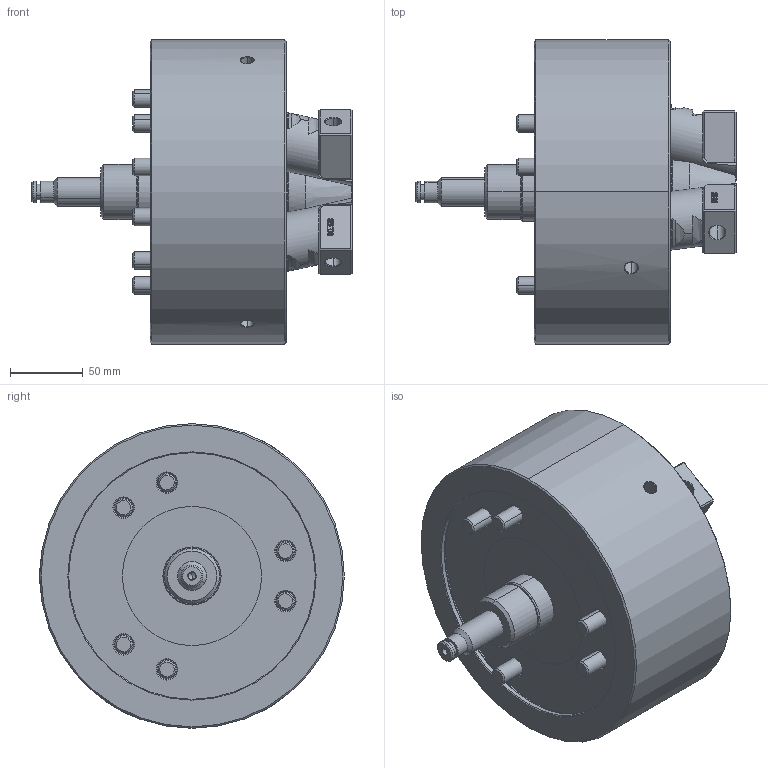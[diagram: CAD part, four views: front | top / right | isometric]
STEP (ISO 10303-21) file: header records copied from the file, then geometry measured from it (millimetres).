
FILE_DESCRIPTION (( 'STEP AP214' ), '1' );
FILE_NAME ('PUE08_CL.STEP', '2019-12-02T03:07:33', ( '' ), ( '' ), 'SwSTEP 2.0', 'SolidWorks 2017', '' );
FILE_SCHEMA (( 'AUTOMOTIVE_DESIGN' ));
Length unit declared in the file: millimetre
Products named in the file (4): 61P458072; PUE08_CL; 結合; 0030106012
Assembly tree (7 placements, depth 2):
  PUE08_CL
    61P458072  x3
    0030106012  x3
    結合
Bounding box: 220.85 x 210 x 210 mm (x, y, z)
Volume: 3377853.2 mm3; surface area: 239178.4 mm2
Topology: 7 solids, 7 shells, 1617 faces, 4027 edges, 2517 vertices
Faces by surface type: plane 669, bspline 396, cone 278, cylinder 235, torus 39
Entity records: 47416 total; most frequent: CARTESIAN_POINT 19792, ORIENTED_EDGE 5998, DIRECTION 4957, EDGE_CURVE 2999, VERTEX_POINT 1889, AXIS2_PLACEMENT_3D 1681, LINE 1595, VECTOR 1595
